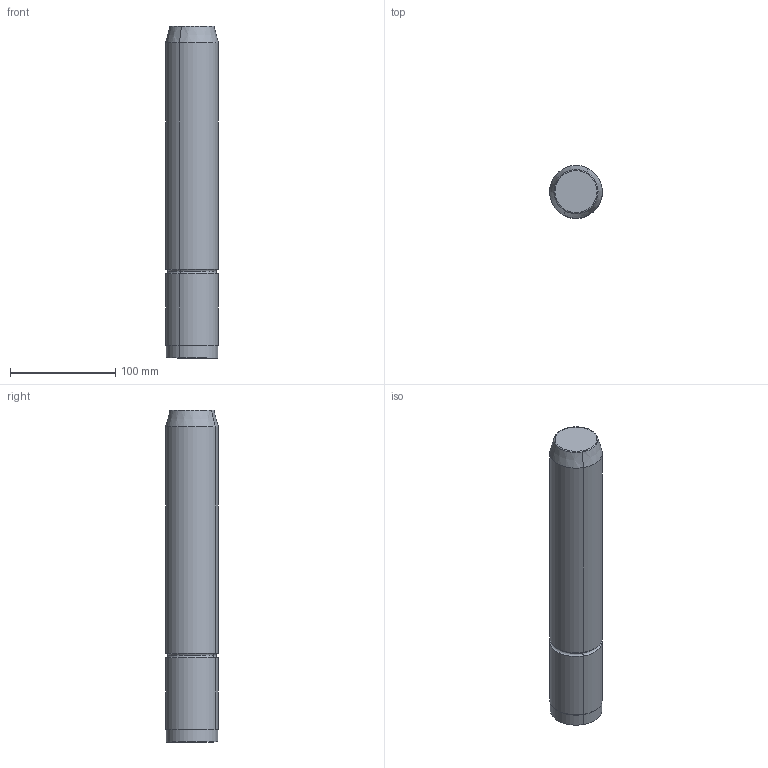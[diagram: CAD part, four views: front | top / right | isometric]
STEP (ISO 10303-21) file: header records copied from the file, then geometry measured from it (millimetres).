
FILE_DESCRIPTION(('CATIA V5 STEP Exchange'),'2;1');
FILE_NAME('C:\Users\Utente\Desktop\IO LAVORO\3D X SITO CF\X SITO\M104\M104-50x315.stp','2020-12-26T21:23:38+00:00',('none'),('none'),'CATIA Version 5 Release 20 GA (IN-10)','CATIA V5 STEP AP203','none');
FILE_SCHEMA(('CONFIG_CONTROL_DESIGN'));
Length unit declared in the file: millimetre
Products named in the file (1): M104-50x315
Bounding box: 49.99 x 49.99 x 315 mm (x, y, z)
Volume: 611424.6 mm3; surface area: 52910.8 mm2
Topology: 1 solids, 1 shells, 17 faces, 32 edges, 18 vertices
Faces by surface type: cylinder 6, torus 6, plane 3, cone 2
Entity records: 438 total; most frequent: CARTESIAN_POINT 66, ORIENTED_EDGE 64, DIRECTION 62, AXIS2_PLACEMENT_3D 40, EDGE_CURVE 32, CIRCLE 24, EDGE_LOOP 18, VERTEX_POINT 18
